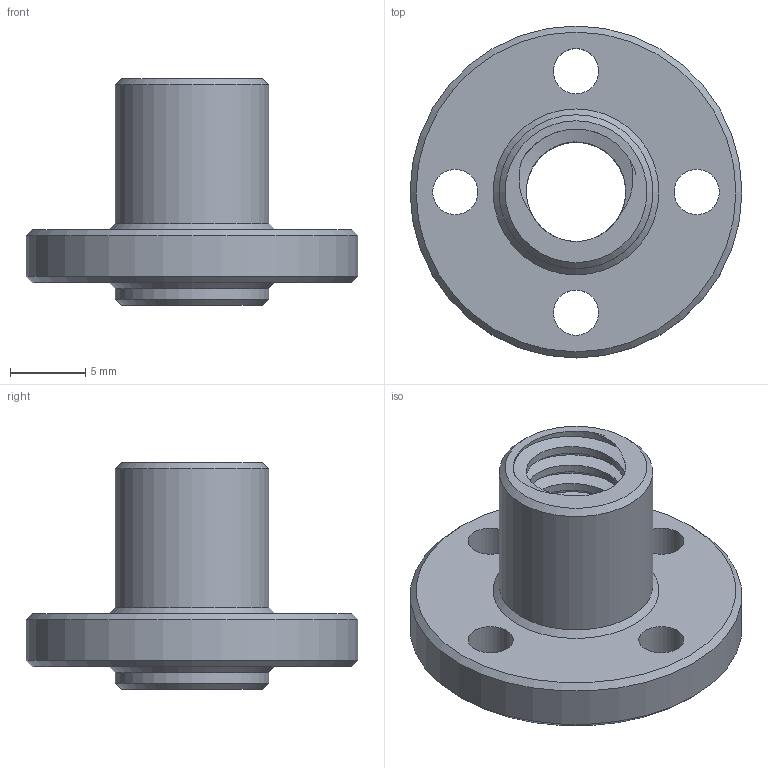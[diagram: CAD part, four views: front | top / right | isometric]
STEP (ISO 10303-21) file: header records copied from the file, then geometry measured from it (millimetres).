
FILE_DESCRIPTION(/* description */ (''),/* implementation_level */ '2;1');
FILE_NAME(/* name */ 'TR8x2 Leadscrew Nut.step',/* time_stamp */ '2026-05-27T13:18:32-07:00',/* author */ (''),/* organization */ (''),/* preprocessor_version */ 'ST-DEVELOPER v20.1',/* originating_system */ 'Autodesk Translation Framework v15.8.0.0',/* authorisation */ '');
FILE_SCHEMA (('AUTOMOTIVE_DESIGN { 1 0 10303 214 3 1 1 }'));
Length unit declared in the file: millimetre
Products named in the file (1): TR8x2 Leadscrew Nut
Bounding box: 22 x 22 x 15 mm (x, y, z)
Volume: 1504.9 mm3; surface area: 1952.4 mm2
Topology: 1 solids, 1 shells, 41 faces, 105 edges, 68 vertices
Faces by surface type: cylinder 29, cone 6, plane 4, bspline 2
Full cylindrical faces by diameter (mm): 3 x4, 6.595 x6, 8.3 x7, 10.2 x2, 22 x1
Entity records: 2536 total; most frequent: CARTESIAN_POINT 1565, ORIENTED_EDGE 210, DIRECTION 161, EDGE_CURVE 105, VERTEX_POINT 68, AXIS2_PLACEMENT_3D 64, EDGE_LOOP 53, B_SPLINE_CURVE_WITH_KNOTS 48
